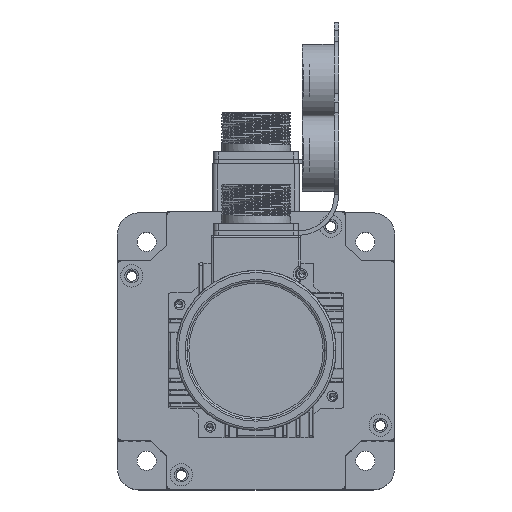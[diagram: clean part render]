
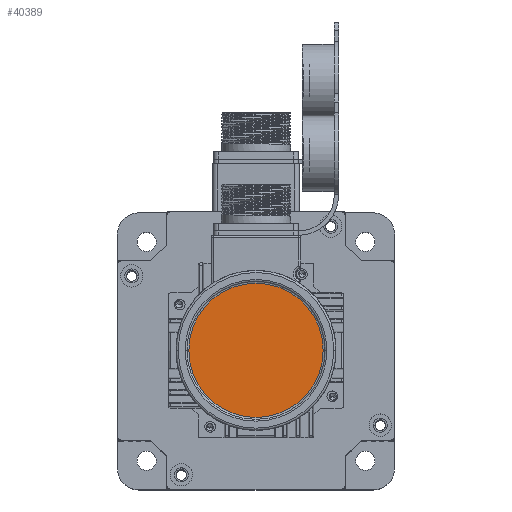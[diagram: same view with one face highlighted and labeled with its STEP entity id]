
A CAD part, top view. The second image highlights one B-rep face of the part: STEP entity #40389.
In plain terms, the highlighted planar face has unit normal (0, 0, 1) as drawn and (0, 0, -1) by its records, which use the part's own axes.
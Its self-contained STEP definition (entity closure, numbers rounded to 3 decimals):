
#2381 = ORIENTED_EDGE ( 'NONE', *, *, #27271, .T. ) ;
#8099 = AXIS2_PLACEMENT_3D ( 'NONE', #29181, #43651, #14990 ) ;
#13155 = FACE_OUTER_BOUND ( 'NONE', #48455, .T. ) ;
#14990 = DIRECTION ( 'NONE',  ( -1., 0., 0. ) ) ;
#16533 = CARTESIAN_POINT ( 'NONE',  ( 0., 0., -41.5 ) ) ;
#20457 = VERTEX_POINT ( 'NONE', #34828 ) ;
#21346 = DIRECTION ( 'NONE',  ( -1., 0., 0. ) ) ;
#25229 = CIRCLE ( 'NONE', #36998, 31.5 ) ;
#26315 = CARTESIAN_POINT ( 'NONE',  ( 0., 0., -41.5 ) ) ;
#27271 = EDGE_CURVE ( 'NONE', #20457, #58988, #25229, .T. ) ;
#29181 = CARTESIAN_POINT ( 'NONE',  ( 0., 0., -41.5 ) ) ;
#31156 = DIRECTION ( 'NONE',  ( -1., 0., 0. ) ) ;
#33471 = CARTESIAN_POINT ( 'NONE',  ( 31.5, 0., -41.5 ) ) ;
#34391 = ORIENTED_EDGE ( 'NONE', *, *, #41290, .T. ) ;
#34828 = CARTESIAN_POINT ( 'NONE',  ( -31.5, 0., -41.5 ) ) ;
#36998 = AXIS2_PLACEMENT_3D ( 'NONE', #26315, #59801, #31156 ) ;
#38845 = PLANE ( 'NONE',  #8099 ) ;
#40389 = ADVANCED_FACE ( 'NONE', ( #13155 ), #38845, .T. ) ;
#41290 = EDGE_CURVE ( 'NONE', #58988, #20457, #54207, .T. ) ;
#43651 = DIRECTION ( 'NONE',  ( 0., 0., -1. ) ) ;
#48455 = EDGE_LOOP ( 'NONE', ( #2381, #34391 ) ) ;
#50023 = DIRECTION ( 'NONE',  ( 0., 0., -1. ) ) ;
#52545 = AXIS2_PLACEMENT_3D ( 'NONE', #16533, #50023, #21346 ) ;
#54207 = CIRCLE ( 'NONE', #52545, 31.5 ) ;
#58988 = VERTEX_POINT ( 'NONE', #33471 ) ;
#59801 = DIRECTION ( 'NONE',  ( 0., 0., -1. ) ) ;
